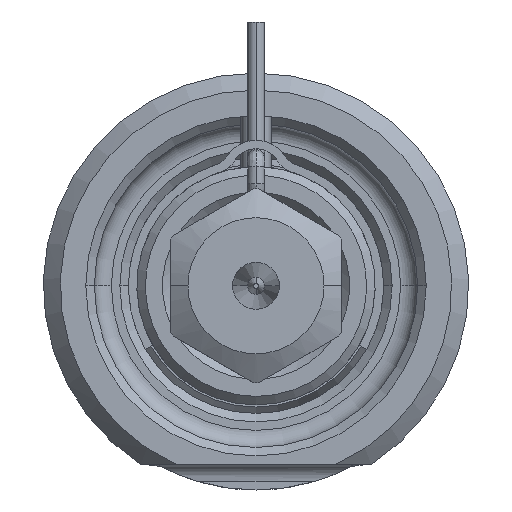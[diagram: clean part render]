
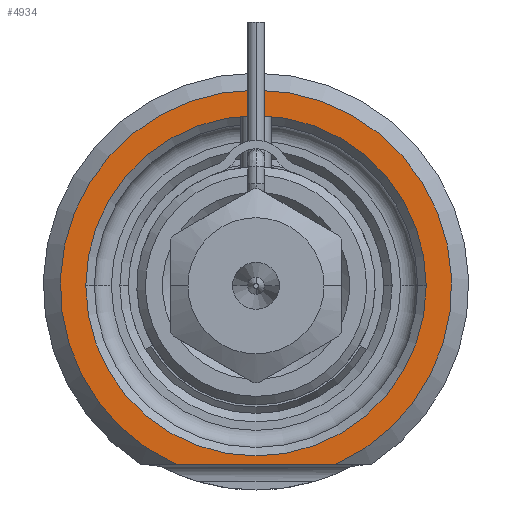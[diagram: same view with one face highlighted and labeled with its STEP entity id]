
A CAD part, front view. The second image highlights one B-rep face of the part: STEP entity #4934.
In plain terms, the highlighted planar face has unit normal (0, -1, 0).
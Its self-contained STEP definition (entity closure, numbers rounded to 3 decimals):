
#1177=CARTESIAN_POINT('',(0.,0.,0.));
#1178=DIRECTION('',(0.,-1.,0.));
#1179=DIRECTION('',(0.408,0.,-0.913));
#1180=AXIS2_PLACEMENT_3D('',#1177,#1178,#1179);
#1201=DIRECTION('',(1.,0.,0.));
#1202=VECTOR('',#1201,9.381);
#1203=CARTESIAN_POINT('',(-4.69,0.,-10.5));
#1204=LINE('',#1203,#1202);
#1205=CARTESIAN_POINT('',(0.,0.,0.));
#1206=DIRECTION('',(0.,1.,0.));
#1207=DIRECTION('',(-1.,0.,0.));
#1208=AXIS2_PLACEMENT_3D('',#1205,#1206,#1207);
#1210=CARTESIAN_POINT('',(0.,0.,0.));
#1211=DIRECTION('',(0.,1.,0.));
#1212=DIRECTION('',(1.,0.,0.));
#1213=AXIS2_PLACEMENT_3D('',#1210,#1211,#1212);
#3206=CARTESIAN_POINT('',(-10.,0.,0.));
#3207=CARTESIAN_POINT('',(10.,0.,0.));
#3208=VERTEX_POINT('',#3206);
#3209=VERTEX_POINT('',#3207);
#3250=CARTESIAN_POINT('',(-4.69,0.,-10.5));
#3251=CARTESIAN_POINT('',(4.69,0.,-10.5));
#3252=VERTEX_POINT('',#3250);
#3253=VERTEX_POINT('',#3251);
#4919=CARTESIAN_POINT('',(0.,0.,0.));
#4920=DIRECTION('',(0.,-1.,0.));
#4921=DIRECTION('',(1.,0.,0.));
#4922=AXIS2_PLACEMENT_3D('',#4919,#4920,#4921);
#4923=PLANE('',#4922);
#4924=ORIENTED_EDGE('',*,*,#4854,.F.);
#4925=ORIENTED_EDGE('',*,*,#4911,.F.);
#4926=EDGE_LOOP('',(#4924,#4925));
#4927=FACE_OUTER_BOUND('',#4926,.F.);
#4929=ORIENTED_EDGE('',*,*,#4928,.F.);
#4931=ORIENTED_EDGE('',*,*,#4930,.F.);
#4932=EDGE_LOOP('',(#4929,#4931));
#4933=FACE_BOUND('',#4932,.F.);
#4934=ADVANCED_FACE('',(#4927,#4933),#4923,.T.);
#1181=CIRCLE('',#1180,11.5);
#1209=CIRCLE('',#1208,10.);
#1214=CIRCLE('',#1213,10.);
#4854=EDGE_CURVE('',#3252,#3253,#1204,.T.);
#4911=EDGE_CURVE('',#3253,#3252,#1181,.T.);
#4928=EDGE_CURVE('',#3208,#3209,#1209,.T.);
#4930=EDGE_CURVE('',#3209,#3208,#1214,.T.);
